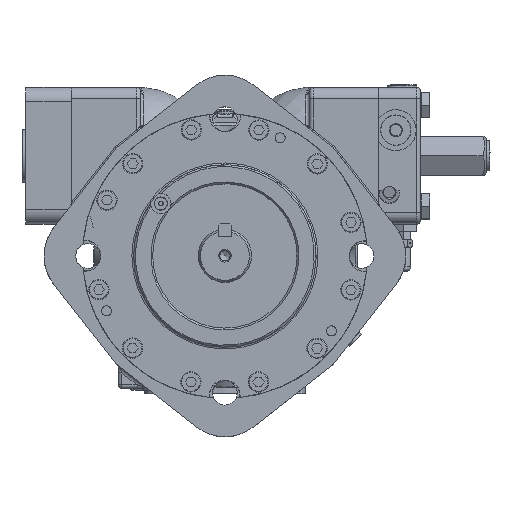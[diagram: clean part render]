
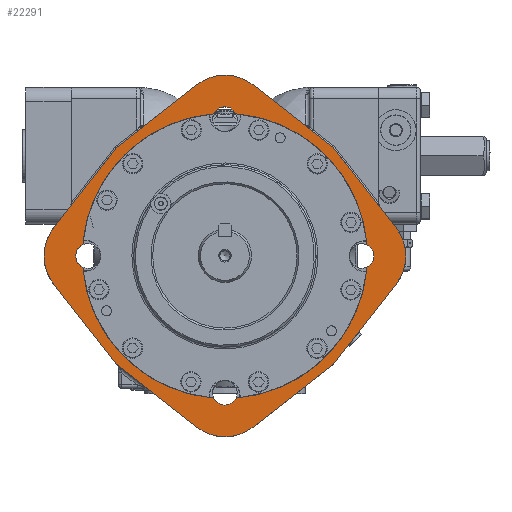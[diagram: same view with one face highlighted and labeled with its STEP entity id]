
A CAD part, top view. The second image highlights one B-rep face of the part: STEP entity #22291.
In plain terms, the highlighted planar face has unit normal (0, 0, 1).
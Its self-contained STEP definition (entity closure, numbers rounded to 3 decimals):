
#1001=FACE_BOUND($,#6521,.T.);
#2457=LINE($,#33222,#3568);
#2492=LINE($,#34938,#3603);
#2493=LINE($,#34940,#3604);
#2494=LINE($,#34944,#3605);
#2495=LINE($,#34946,#3606);
#2496=LINE($,#34950,#3607);
#2497=LINE($,#34952,#3608);
#2498=LINE($,#34955,#3609);
#3568=VECTOR($,#26638,3.349);
#3603=VECTOR($,#27197,3.349);
#3604=VECTOR($,#27198,3.349);
#3605=VECTOR($,#27201,3.349);
#3606=VECTOR($,#27202,3.349);
#3607=VECTOR($,#27205,3.349);
#3608=VECTOR($,#27206,3.349);
#3609=VECTOR($,#27209,3.349);
#4809=FACE_OUTER_BOUND($,#6520,.T.);
#6520=EDGE_LOOP($,(#15468,#15469,#15470,#15471,#15472,#15473,#15474,#15475,
#15476,#15477,#15478,#15479));
#6521=EDGE_LOOP($,(#15480,#15481,#15482,#15483,#15484,#15485,#15486,#15487));
#8615=CIRCLE($,#24138,0.405);
#8617=CIRCLE($,#24141,0.405);
#8619=CIRCLE($,#24144,0.405);
#8621=CIRCLE($,#24147,0.405);
#8623=CIRCLE($,#24150,1.5);
#8624=CIRCLE($,#24151,1.5);
#8625=CIRCLE($,#24152,1.5);
#8626=CIRCLE($,#24153,1.5);
#8627=CIRCLE($,#24154,4.687);
#8628=CIRCLE($,#24155,4.687);
#8629=CIRCLE($,#24156,4.687);
#8630=CIRCLE($,#24157,4.687);
#9773=VERTEX_POINT($,#33219);
#9774=VERTEX_POINT($,#33221);
#9950=VERTEX_POINT($,#34904);
#9951=VERTEX_POINT($,#34906);
#9953=VERTEX_POINT($,#34912);
#9954=VERTEX_POINT($,#34914);
#9956=VERTEX_POINT($,#34920);
#9957=VERTEX_POINT($,#34922);
#9959=VERTEX_POINT($,#34928);
#9960=VERTEX_POINT($,#34930);
#9962=VERTEX_POINT($,#34936);
#9963=VERTEX_POINT($,#34937);
#9964=VERTEX_POINT($,#34939);
#9965=VERTEX_POINT($,#34941);
#9966=VERTEX_POINT($,#34943);
#9967=VERTEX_POINT($,#34945);
#9968=VERTEX_POINT($,#34947);
#9969=VERTEX_POINT($,#34949);
#9970=VERTEX_POINT($,#34951);
#9971=VERTEX_POINT($,#34953);
#11943=EDGE_CURVE($,#9773,#9774,#2457,.T.);
#12135=EDGE_CURVE($,#9951,#9950,#8615,.T.);
#12139=EDGE_CURVE($,#9954,#9953,#8617,.T.);
#12143=EDGE_CURVE($,#9957,#9956,#8619,.T.);
#12147=EDGE_CURVE($,#9960,#9959,#8621,.T.);
#12150=EDGE_CURVE($,#9962,#9963,#2492,.T.);
#12151=EDGE_CURVE($,#9964,#9962,#2493,.T.);
#12152=EDGE_CURVE($,#9965,#9964,#8623,.T.);
#12153=EDGE_CURVE($,#9966,#9965,#2494,.T.);
#12154=EDGE_CURVE($,#9967,#9966,#2495,.T.);
#12155=EDGE_CURVE($,#9968,#9967,#8624,.T.);
#12156=EDGE_CURVE($,#9969,#9968,#2496,.T.);
#12157=EDGE_CURVE($,#9970,#9969,#2497,.T.);
#12158=EDGE_CURVE($,#9971,#9970,#8625,.T.);
#12159=EDGE_CURVE($,#9774,#9971,#2498,.T.);
#12160=EDGE_CURVE($,#9963,#9773,#8626,.T.);
#12161=EDGE_CURVE($,#9954,#9950,#8627,.T.);
#12162=EDGE_CURVE($,#9957,#9953,#8628,.T.);
#12163=EDGE_CURVE($,#9960,#9956,#8629,.T.);
#12164=EDGE_CURVE($,#9951,#9959,#8630,.T.);
#15468=ORIENTED_EDGE($,*,*,#12150,.F.);
#15469=ORIENTED_EDGE($,*,*,#12151,.F.);
#15470=ORIENTED_EDGE($,*,*,#12152,.F.);
#15471=ORIENTED_EDGE($,*,*,#12153,.F.);
#15472=ORIENTED_EDGE($,*,*,#12154,.F.);
#15473=ORIENTED_EDGE($,*,*,#12155,.F.);
#15474=ORIENTED_EDGE($,*,*,#12156,.F.);
#15475=ORIENTED_EDGE($,*,*,#12157,.F.);
#15476=ORIENTED_EDGE($,*,*,#12158,.F.);
#15477=ORIENTED_EDGE($,*,*,#12159,.F.);
#15478=ORIENTED_EDGE($,*,*,#11943,.F.);
#15479=ORIENTED_EDGE($,*,*,#12160,.F.);
#15480=ORIENTED_EDGE($,*,*,#12135,.T.);
#15481=ORIENTED_EDGE($,*,*,#12161,.F.);
#15482=ORIENTED_EDGE($,*,*,#12139,.T.);
#15483=ORIENTED_EDGE($,*,*,#12162,.F.);
#15484=ORIENTED_EDGE($,*,*,#12143,.T.);
#15485=ORIENTED_EDGE($,*,*,#12163,.F.);
#15486=ORIENTED_EDGE($,*,*,#12147,.T.);
#15487=ORIENTED_EDGE($,*,*,#12164,.F.);
#21567=PLANE($,#24149);
#22291=ADVANCED_FACE($,(#4809,#1001),#21567,.F.);
#24138=AXIS2_PLACEMENT_3D($,#34907,#27166,#27167);
#24141=AXIS2_PLACEMENT_3D($,#34915,#27174,#27175);
#24144=AXIS2_PLACEMENT_3D($,#34923,#27182,#27183);
#24147=AXIS2_PLACEMENT_3D($,#34931,#27190,#27191);
#24149=AXIS2_PLACEMENT_3D($,#34935,#27195,#27196);
#24150=AXIS2_PLACEMENT_3D($,#34942,#27199,#27200);
#24151=AXIS2_PLACEMENT_3D($,#34948,#27203,#27204);
#24152=AXIS2_PLACEMENT_3D($,#34954,#27207,#27208);
#24153=AXIS2_PLACEMENT_3D($,#34956,#27210,#27211);
#24154=AXIS2_PLACEMENT_3D($,#34957,#27212,#27213);
#24155=AXIS2_PLACEMENT_3D($,#34958,#27214,#27215);
#24156=AXIS2_PLACEMENT_3D($,#34959,#27216,#27217);
#24157=AXIS2_PLACEMENT_3D($,#34960,#27218,#27219);
#26638=DIRECTION($,(-0.618,-0.786,0.));
#27166=DIRECTION('center_axis',(0.,0.,
-1.));
#27167=DIRECTION('ref_axis',(0.,-1.,0.));
#27174=DIRECTION('center_axis',(0.,0.,
-1.));
#27175=DIRECTION('ref_axis',(0.,-1.,0.));
#27182=DIRECTION('center_axis',(0.,0.,
-1.));
#27183=DIRECTION('ref_axis',(0.,-1.,0.));
#27190=DIRECTION('center_axis',(0.,0.,
-1.));
#27191=DIRECTION('ref_axis',(0.,-1.,0.));
#27195=DIRECTION('center_axis',(0.,0.,
-1.));
#27196=DIRECTION('ref_axis',(0.707,0.707,0.));
#27197=DIRECTION($,(0.618,-0.786,0.));
#27198=DIRECTION($,(0.786,-0.618,0.));
#27199=DIRECTION('center_axis',(0.,0.,
-1.));
#27200=DIRECTION('ref_axis',(-0.618,0.786,0.));
#27201=DIRECTION($,(0.786,0.618,0.));
#27202=DIRECTION($,(0.618,0.786,0.));
#27203=DIRECTION('center_axis',(0.,0.,
-1.));
#27204=DIRECTION('ref_axis',(-0.786,-0.618,0.));
#27205=DIRECTION($,(-0.618,0.786,0.));
#27206=DIRECTION($,(-0.786,0.618,0.));
#27207=DIRECTION('center_axis',(0.,0.,
-1.));
#27208=DIRECTION('ref_axis',(0.618,-0.786,0.));
#27209=DIRECTION($,(-0.786,-0.618,0.));
#27210=DIRECTION('center_axis',(0.,0.,
-1.));
#27211=DIRECTION('ref_axis',(0.786,0.618,0.));
#27212=DIRECTION('center_axis',(0.,0.,
1.));
#27213=DIRECTION('ref_axis',(0.,-1.,0.));
#27214=DIRECTION('center_axis',(0.,0.,
1.));
#27215=DIRECTION('ref_axis',(0.,-1.,0.));
#27216=DIRECTION('center_axis',(0.,0.,
1.));
#27217=DIRECTION('ref_axis',(0.,-1.,0.));
#27218=DIRECTION('center_axis',(0.,0.,
1.));
#27219=DIRECTION('ref_axis',(0.,-1.,0.));
#33219=CARTESIAN_POINT('',(5.629,-0.927,0.));
#33221=CARTESIAN_POINT('',(3.56,-3.56,0.));
#33222=CARTESIAN_POINT($,(2.266,-5.208,0.));
#34904=CARTESIAN_POINT('',(0.366,4.673,0.));
#34906=CARTESIAN_POINT('',(-0.366,4.673,0.));
#34907=CARTESIAN_POINT('Origin',(0.,4.5,
0.));
#34912=CARTESIAN_POINT('',(4.673,-0.366,0.));
#34914=CARTESIAN_POINT('',(4.673,0.366,0.));
#34915=CARTESIAN_POINT('Origin',(4.5,0.,
0.));
#34920=CARTESIAN_POINT('',(-0.366,-4.673,0.));
#34922=CARTESIAN_POINT('',(0.366,-4.673,0.));
#34923=CARTESIAN_POINT('Origin',(0.,-4.5,
0.));
#34928=CARTESIAN_POINT('',(-4.673,0.366,0.));
#34930=CARTESIAN_POINT('',(-4.673,-0.366,0.));
#34931=CARTESIAN_POINT('Origin',(-4.5,0.,
0.));
#34935=CARTESIAN_POINT('Origin',(0.,-6.094,0.));
#34936=CARTESIAN_POINT('',(3.56,3.56,0.));
#34937=CARTESIAN_POINT('',(5.629,0.927,0.));
#34938=CARTESIAN_POINT($,(6.26,0.123,0.));
#34939=CARTESIAN_POINT('',(0.927,5.629,0.));
#34940=CARTESIAN_POINT($,(4.804,2.583,0.));
#34941=CARTESIAN_POINT('',(-0.927,5.629,0.));
#34942=CARTESIAN_POINT('Origin',(0.,4.449,
0.));
#34943=CARTESIAN_POINT('',(-3.56,3.56,0.));
#34944=CARTESIAN_POINT($,(-3.487,3.618,0.));
#34945=CARTESIAN_POINT('',(-5.629,0.927,0.));
#34946=CARTESIAN_POINT($,(-5.226,1.44,0.));
#34947=CARTESIAN_POINT('',(-5.629,-0.927,0.));
#34948=CARTESIAN_POINT('Origin',(-4.449,0.,
0.));
#34949=CARTESIAN_POINT('',(-3.56,-3.56,0.));
#34950=CARTESIAN_POINT($,(-3.3,-3.891,0.));
#34951=CARTESIAN_POINT('',(-0.927,-5.629,0.));
#34952=CARTESIAN_POINT($,(-1.844,-4.908,0.));
#34953=CARTESIAN_POINT('',(0.927,-5.629,0.));
#34954=CARTESIAN_POINT('Origin',(0.,-4.449,
0.));
#34955=CARTESIAN_POINT($,(0.527,-5.943,0.));
#34956=CARTESIAN_POINT('Origin',(4.449,0.,
0.));
#34957=CARTESIAN_POINT('Origin',(0.,0.,
0.));
#34958=CARTESIAN_POINT('Origin',(0.,0.,
0.));
#34959=CARTESIAN_POINT('Origin',(0.,0.,
0.));
#34960=CARTESIAN_POINT('Origin',(0.,0.,
0.));
